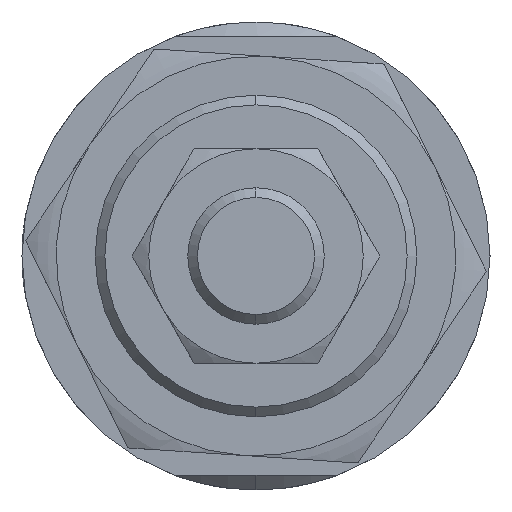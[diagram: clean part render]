
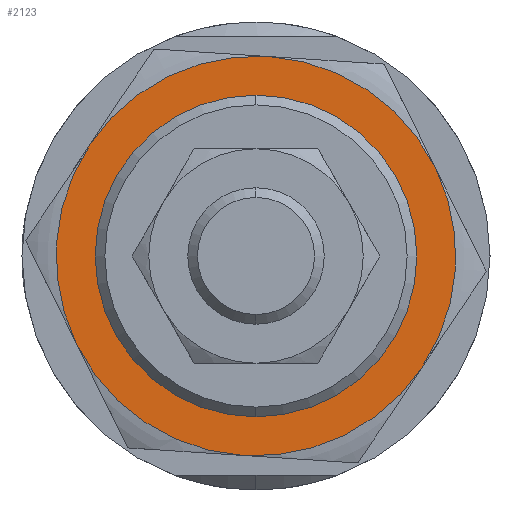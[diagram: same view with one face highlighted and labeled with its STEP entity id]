
A CAD part, left-side view. The second image highlights one B-rep face of the part: STEP entity #2123.
In plain terms, the highlighted planar face has unit normal (-1, 0, 0) as drawn and (0, 0, -1) by its records, which use the part's own axes.
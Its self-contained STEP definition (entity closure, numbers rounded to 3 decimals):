
#38 = ORIENTED_EDGE ( 'NONE', *, *, #1833, .T. ) ;
#101 = EDGE_CURVE ( 'NONE', #2141, #2868, #2457, .T. ) ;
#126 = AXIS2_PLACEMENT_3D ( 'NONE', #894, #2906, #1394 ) ;
#153 = DIRECTION ( 'NONE',  ( 0., 0., 1. ) ) ;
#159 = AXIS2_PLACEMENT_3D ( 'NONE', #425, #1726, #196 ) ;
#196 = DIRECTION ( 'NONE',  ( 1., 0., 0. ) ) ;
#227 = DIRECTION ( 'NONE',  ( 1., 0., 0. ) ) ;
#257 = CARTESIAN_POINT ( 'NONE',  ( 0., 0., -5.5 ) ) ;
#340 = CIRCLE ( 'NONE', #2739, 15.5 ) ;
#380 = CIRCLE ( 'NONE', #964, 20.5 ) ;
#385 = AXIS2_PLACEMENT_3D ( 'NONE', #541, #2341, #552 ) ;
#403 = DIRECTION ( 'NONE',  ( 1., 0., 0. ) ) ;
#425 = CARTESIAN_POINT ( 'NONE',  ( 0., 0., -5.5 ) ) ;
#489 = EDGE_CURVE ( 'NONE', #2868, #2282, #3141, .T. ) ;
#541 = CARTESIAN_POINT ( 'NONE',  ( 0., 0., -5.5 ) ) ;
#552 = DIRECTION ( 'NONE',  ( 1., 0., 0. ) ) ;
#568 = CARTESIAN_POINT ( 'NONE',  ( -15.5, 0., -5.5 ) ) ;
#581 = CIRCLE ( 'NONE', #1664, 20.5 ) ;
#589 = ORIENTED_EDGE ( 'NONE', *, *, #101, .F. ) ;
#622 = DIRECTION ( 'NONE',  ( 1., 0., 0. ) ) ;
#683 = DIRECTION ( 'NONE',  ( 0., 0., 1. ) ) ;
#745 = ORIENTED_EDGE ( 'NONE', *, *, #1160, .F. ) ;
#754 = PLANE ( 'NONE',  #1484 ) ;
#867 = FACE_OUTER_BOUND ( 'NONE', #1934, .T. ) ;
#894 = CARTESIAN_POINT ( 'NONE',  ( 0., 0., -5.5 ) ) ;
#951 = ORIENTED_EDGE ( 'NONE', *, *, #2223, .F. ) ;
#964 = AXIS2_PLACEMENT_3D ( 'NONE', #2383, #2377, #622 ) ;
#1020 = DIRECTION ( 'NONE',  ( 0., 0., 1. ) ) ;
#1143 = CARTESIAN_POINT ( 'NONE',  ( 0., 0., -5.5 ) ) ;
#1160 = EDGE_CURVE ( 'NONE', #2282, #1222, #3039, .T. ) ;
#1222 = VERTEX_POINT ( 'NONE', #1778 ) ;
#1362 = VERTEX_POINT ( 'NONE', #1578 ) ;
#1373 = DIRECTION ( 'NONE',  ( 1., 0., 0. ) ) ;
#1394 = DIRECTION ( 'NONE',  ( 1., 0., 0. ) ) ;
#1461 = EDGE_CURVE ( 'NONE', #2741, #2371, #340, .T. ) ;
#1471 = EDGE_CURVE ( 'NONE', #1222, #3268, #380, .T. ) ;
#1484 = AXIS2_PLACEMENT_3D ( 'NONE', #257, #1020, #2538 ) ;
#1513 = CIRCLE ( 'NONE', #2675, 20.5 ) ;
#1518 = ORIENTED_EDGE ( 'NONE', *, *, #1471, .F. ) ;
#1578 = CARTESIAN_POINT ( 'NONE',  ( -10.25, -17.754, -5.5 ) ) ;
#1664 = AXIS2_PLACEMENT_3D ( 'NONE', #2827, #2107, #2622 ) ;
#1682 = CARTESIAN_POINT ( 'NONE',  ( 0., 0., -5.5 ) ) ;
#1726 = DIRECTION ( 'NONE',  ( 0., 0., 1. ) ) ;
#1778 = CARTESIAN_POINT ( 'NONE',  ( -10.25, 17.754, -5.5 ) ) ;
#1782 = CARTESIAN_POINT ( 'NONE',  ( 10.25, -17.754, -5.5 ) ) ;
#1833 = EDGE_CURVE ( 'NONE', #2371, #2741, #1876, .T. ) ;
#1839 = FACE_BOUND ( 'NONE', #3066, .T. ) ;
#1876 = CIRCLE ( 'NONE', #126, 15.5 ) ;
#1902 = EDGE_CURVE ( 'NONE', #3268, #1362, #581, .T. ) ;
#1914 = DIRECTION ( 'NONE',  ( 0., 0., 1. ) ) ;
#1934 = EDGE_LOOP ( 'NONE', ( #2216, #589, #951, #3202, #1518, #745 ) ) ;
#2099 = AXIS2_PLACEMENT_3D ( 'NONE', #2458, #683, #227 ) ;
#2107 = DIRECTION ( 'NONE',  ( 0., 0., 1. ) ) ;
#2123 = ADVANCED_FACE ( 'NONE', ( #1839, #867 ), #754, .F. ) ;
#2141 = VERTEX_POINT ( 'NONE', #1782 ) ;
#2216 = ORIENTED_EDGE ( 'NONE', *, *, #489, .F. ) ;
#2223 = EDGE_CURVE ( 'NONE', #1362, #2141, #1513, .T. ) ;
#2282 = VERTEX_POINT ( 'NONE', #2544 ) ;
#2320 = CARTESIAN_POINT ( 'NONE',  ( 15.5, 0., -5.5 ) ) ;
#2341 = DIRECTION ( 'NONE',  ( 0., 0., 1. ) ) ;
#2371 = VERTEX_POINT ( 'NONE', #568 ) ;
#2377 = DIRECTION ( 'NONE',  ( 0., 0., 1. ) ) ;
#2383 = CARTESIAN_POINT ( 'NONE',  ( 0., 0., -5.5 ) ) ;
#2457 = CIRCLE ( 'NONE', #385, 20.5 ) ;
#2458 = CARTESIAN_POINT ( 'NONE',  ( 0., 0., -5.5 ) ) ;
#2538 = DIRECTION ( 'NONE',  ( 1., 0., 0. ) ) ;
#2544 = CARTESIAN_POINT ( 'NONE',  ( 10.25, 17.754, -5.5 ) ) ;
#2548 = ORIENTED_EDGE ( 'NONE', *, *, #1461, .T. ) ;
#2622 = DIRECTION ( 'NONE',  ( 1., 0., 0. ) ) ;
#2661 = CARTESIAN_POINT ( 'NONE',  ( -20.5, 0., -5.5 ) ) ;
#2675 = AXIS2_PLACEMENT_3D ( 'NONE', #1682, #153, #403 ) ;
#2739 = AXIS2_PLACEMENT_3D ( 'NONE', #1143, #1914, #1373 ) ;
#2741 = VERTEX_POINT ( 'NONE', #2320 ) ;
#2827 = CARTESIAN_POINT ( 'NONE',  ( 0., 0., -5.5 ) ) ;
#2868 = VERTEX_POINT ( 'NONE', #3192 ) ;
#2906 = DIRECTION ( 'NONE',  ( 0., 0., 1. ) ) ;
#3039 = CIRCLE ( 'NONE', #2099, 20.5 ) ;
#3066 = EDGE_LOOP ( 'NONE', ( #2548, #38 ) ) ;
#3141 = CIRCLE ( 'NONE', #159, 20.5 ) ;
#3192 = CARTESIAN_POINT ( 'NONE',  ( 20.5, 0., -5.5 ) ) ;
#3202 = ORIENTED_EDGE ( 'NONE', *, *, #1902, .F. ) ;
#3268 = VERTEX_POINT ( 'NONE', #2661 ) ;
